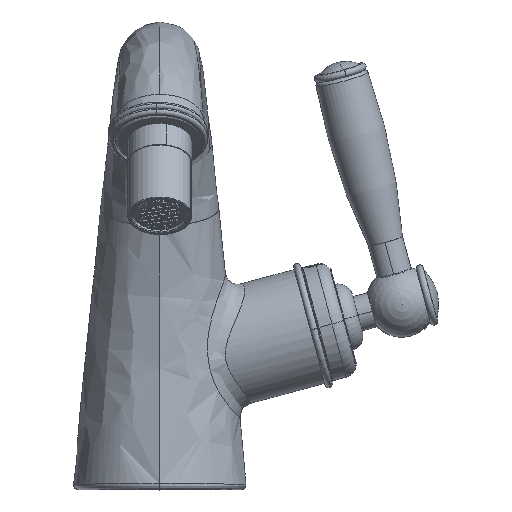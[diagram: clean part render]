
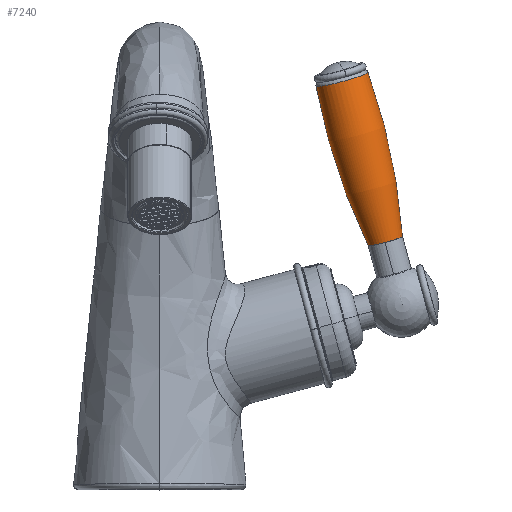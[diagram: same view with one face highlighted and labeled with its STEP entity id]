
A CAD part, top view. The second image highlights one B-rep face of the part: STEP entity #7240.
In plain terms, the highlighted toroidal (fillet/blend) face has major radius 171.886 mm and minor radius 180 mm.
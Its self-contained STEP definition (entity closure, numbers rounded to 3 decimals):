
#663 = CIRCLE ( 'NONE', #46509, 180. ) ;
#2194 = CARTESIAN_POINT ( 'NONE',  ( -41.336, 0.765, 113.298 ) ) ;
#7240 = ADVANCED_FACE ( 'NONE', ( #64974 ), #8224, .T. ) ;
#8224 = TOROIDAL_SURFACE ( 'NONE', #64560, -171.886, 180. ) ;
#10180 = VERTEX_POINT ( 'NONE', #71227 ) ;
#14011 = EDGE_CURVE ( 'NONE', #10180, #61459, #663, .T. ) ;
#15049 = DIRECTION ( 'NONE',  ( 0., -0.997, -0.081 ) ) ;
#15541 = ORIENTED_EDGE ( 'NONE', *, *, #29489, .T. ) ;
#20096 = EDGE_LOOP ( 'NONE', ( #15541, #67084, #34159, #61742 ) ) ;
#20746 = AXIS2_PLACEMENT_3D ( 'NONE', #30547, #31356, #55600 ) ;
#24578 = CARTESIAN_POINT ( 'NONE',  ( -52.244, 12.211, 114.584 ) ) ;
#25973 = CIRCLE ( 'NONE', #45643, 180. ) ;
#26659 = DIRECTION ( 'NONE',  ( 0.966, 0.26, -0.011 ) ) ;
#29067 = EDGE_CURVE ( 'NONE', #35278, #34380, #25973, .T. ) ;
#29489 = EDGE_CURVE ( 'NONE', #10180, #35278, #63982, .T. ) ;
#30547 = CARTESIAN_POINT ( 'NONE',  ( -44.93, 14.178, 114.502 ) ) ;
#31356 = DIRECTION ( 'NONE',  ( 0.258, -0.962, -0.086 ) ) ;
#31992 = CARTESIAN_POINT ( 'NONE',  ( -32.74, -31.318, 110.417 ) ) ;
#34159 = ORIENTED_EDGE ( 'NONE', *, *, #68762, .F. ) ;
#34380 = VERTEX_POINT ( 'NONE', #44966 ) ;
#35278 = VERTEX_POINT ( 'NONE', #24578 ) ;
#37363 = AXIS2_PLACEMENT_3D ( 'NONE', #31992, #44727, #26659 ) ;
#37407 = CARTESIAN_POINT ( 'NONE',  ( -207.313, -43.876, 115.164 ) ) ;
#37816 = DIRECTION ( 'NONE',  ( 0., 0.997, 0.081 ) ) ;
#39644 = DIRECTION ( 'NONE',  ( 0.033, -0.081, 0.996 ) ) ;
#41155 = DIRECTION ( 'NONE',  ( 0.258, -0.962, -0.086 ) ) ;
#44727 = DIRECTION ( 'NONE',  ( 0.258, -0.962, -0.086 ) ) ;
#44966 = CARTESIAN_POINT ( 'NONE',  ( -37.568, -32.616, 110.471 ) ) ;
#45643 = AXIS2_PLACEMENT_3D ( 'NONE', #58946, #39644, #15049 ) ;
#46483 = CIRCLE ( 'NONE', #37363, 5. ) ;
#46509 = AXIS2_PLACEMENT_3D ( 'NONE', #37407, #80481, #37816 ) ;
#55600 = DIRECTION ( 'NONE',  ( 0.966, 0.26, -0.011 ) ) ;
#58425 = DIRECTION ( 'NONE',  ( 0.966, 0.26, -0.011 ) ) ;
#58946 = CARTESIAN_POINT ( 'NONE',  ( 124.64, 45.406, 111.432 ) ) ;
#61459 = VERTEX_POINT ( 'NONE', #62579 ) ;
#61742 = ORIENTED_EDGE ( 'NONE', *, *, #14011, .F. ) ;
#62579 = CARTESIAN_POINT ( 'NONE',  ( -27.912, -30.019, 110.363 ) ) ;
#63982 = CIRCLE ( 'NONE', #20746, 7.574 ) ;
#64560 = AXIS2_PLACEMENT_3D ( 'NONE', #2194, #41155, #58425 ) ;
#64974 = FACE_OUTER_BOUND ( 'NONE', #20096, .T. ) ;
#67084 = ORIENTED_EDGE ( 'NONE', *, *, #29067, .T. ) ;
#68762 = EDGE_CURVE ( 'NONE', #61459, #34380, #46483, .T. ) ;
#71227 = CARTESIAN_POINT ( 'NONE',  ( -37.617, 16.145, 114.42 ) ) ;
#80481 = DIRECTION ( 'NONE',  ( -0.033, 0.081, -0.996 ) ) ;
